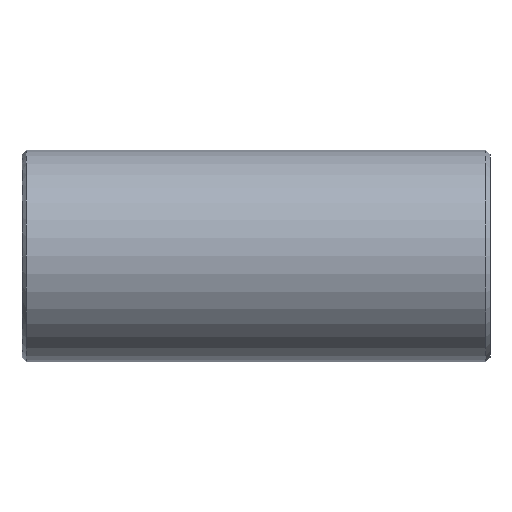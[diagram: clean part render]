
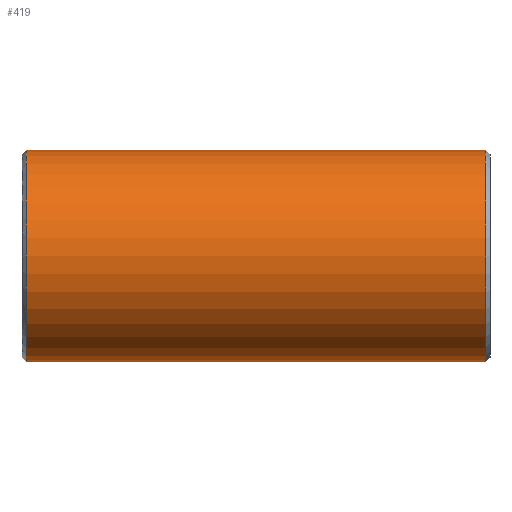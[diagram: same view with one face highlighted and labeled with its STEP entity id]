
A CAD part, front view. The second image highlights one B-rep face of the part: STEP entity #419.
In plain terms, the highlighted cylindrical face has radius 24 mm (diameter 48 mm), a partial arc.
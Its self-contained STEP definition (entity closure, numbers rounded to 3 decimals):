
#231=CARTESIAN_POINT('Vertex',(1.,0.,-24.)) ;
#238=CARTESIAN_POINT('Vertex',(1.,0.,24.)) ;
#267=CARTESIAN_POINT('Axis2P3D Location',(1.,0.,0.)) ;
#271=CARTESIAN_POINT('Vertex',(1.,-24.,0.)) ;
#274=CARTESIAN_POINT('Axis2P3D Location',(1.,0.,0.)) ;
#359=CARTESIAN_POINT('Line Origine',(106.,0.,24.)) ;
#363=CARTESIAN_POINT('Vertex',(105.,0.,24.)) ;
#377=CARTESIAN_POINT('Vertex',(105.,0.,-24.)) ;
#380=CARTESIAN_POINT('Line Origine',(106.,0.,-24.)) ;
#394=CARTESIAN_POINT('Axis2P3D Location',(106.,0.,0.)) ;
#399=CARTESIAN_POINT('Axis2P3D Location',(105.,0.,0.)) ;
#403=CARTESIAN_POINT('Vertex',(105.,-24.,0.)) ;
#406=CARTESIAN_POINT('Axis2P3D Location',(105.,0.,0.)) ;
#268=DIRECTION('Axis2P3D Direction',(1.,0.,-0.)) ;
#275=DIRECTION('Axis2P3D Direction',(1.,0.,-0.)) ;
#360=DIRECTION('Vector Direction',(-1.,0.,0.)) ;
#381=DIRECTION('Vector Direction',(-1.,0.,0.)) ;
#395=DIRECTION('Axis2P3D Direction',(-1.,-0.,-0.)) ;
#396=DIRECTION('Axis2P3D XDirection',(0.,0.,-1.)) ;
#400=DIRECTION('Axis2P3D Direction',(-1.,-0.,-0.)) ;
#407=DIRECTION('Axis2P3D Direction',(-1.,-0.,-0.)) ;
#269=AXIS2_PLACEMENT_3D('Circle Axis2P3D',#267,#268,$) ;
#276=AXIS2_PLACEMENT_3D('Circle Axis2P3D',#274,#275,$) ;
#397=AXIS2_PLACEMENT_3D('Cylinder Axis2P3D',#394,#395,#396) ;
#401=AXIS2_PLACEMENT_3D('Circle Axis2P3D',#399,#400,$) ;
#408=AXIS2_PLACEMENT_3D('Circle Axis2P3D',#406,#407,$) ;
#412=ORIENTED_EDGE('',*,*,#384,.T.) ;
#413=ORIENTED_EDGE('',*,*,#405,.F.) ;
#414=ORIENTED_EDGE('',*,*,#410,.F.) ;
#415=ORIENTED_EDGE('',*,*,#365,.T.) ;
#416=ORIENTED_EDGE('',*,*,#278,.T.) ;
#417=ORIENTED_EDGE('',*,*,#273,.T.) ;
#361=VECTOR('Line Direction',#360,1.) ;
#382=VECTOR('Line Direction',#381,1.) ;
#419=ADVANCED_FACE('352-40X106',(#418),#398,.T.) ;
#270=CIRCLE('generated circle',#269,24.) ;
#277=CIRCLE('generated circle',#276,24.) ;
#402=CIRCLE('generated circle',#401,24.) ;
#409=CIRCLE('generated circle',#408,24.) ;
#398=CYLINDRICAL_SURFACE('generated cylinder',#397,24.) ;
#273=EDGE_CURVE('',#272,#232,#270,.T.) ;
#278=EDGE_CURVE('',#239,#272,#277,.T.) ;
#365=EDGE_CURVE('',#364,#239,#362,.T.) ;
#384=EDGE_CURVE('',#232,#378,#383,.F.) ;
#405=EDGE_CURVE('',#404,#378,#402,.F.) ;
#410=EDGE_CURVE('',#364,#404,#409,.F.) ;
#411=EDGE_LOOP('',(#412,#413,#414,#415,#416,#417)) ;
#418=FACE_OUTER_BOUND('',#411,.T.) ;
#362=LINE('Line',#359,#361) ;
#383=LINE('Line',#380,#382) ;
#232=VERTEX_POINT('',#231) ;
#239=VERTEX_POINT('',#238) ;
#272=VERTEX_POINT('',#271) ;
#364=VERTEX_POINT('',#363) ;
#378=VERTEX_POINT('',#377) ;
#404=VERTEX_POINT('',#403) ;
